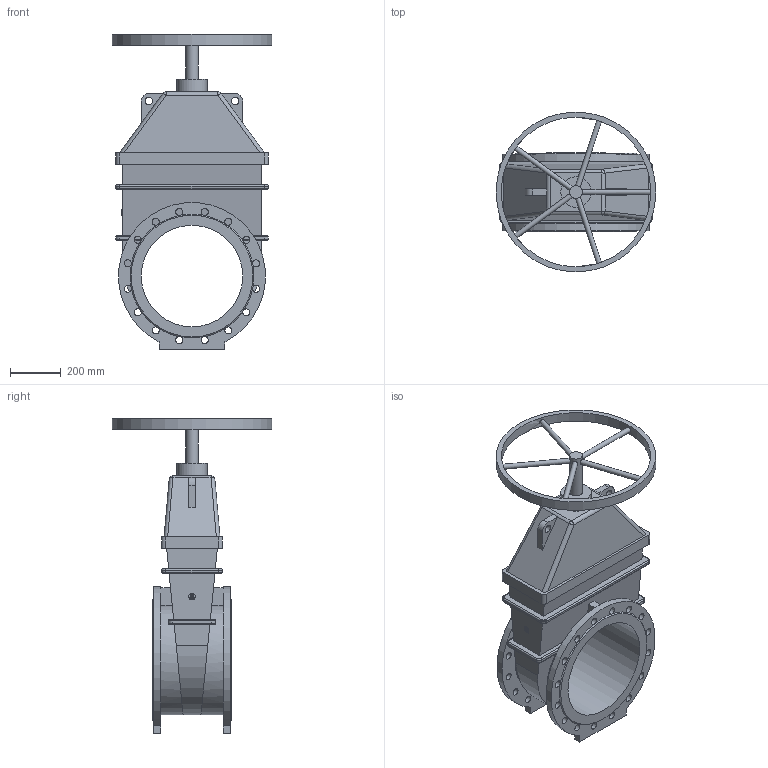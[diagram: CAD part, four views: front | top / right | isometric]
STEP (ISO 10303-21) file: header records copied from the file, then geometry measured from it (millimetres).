
FILE_DESCRIPTION(('STEP AP203'), '1');
FILE_NAME('Çàäâèæêà 47GV DN400 PN10_L310_W630 ñ ìàõîâèêîì', '', ('UNSPECIFIED'), ('UNSPECIFIED'), 'ASCON STEP Converter 1.6', 'ASCON Math Kernel', '');
FILE_SCHEMA(('CONFIG_CONTROL_DESIGN'));
Length unit declared in the file: millimetre
Bounding box: 630 x 630 x 1243 mm (x, y, z)
Volume: 72539446.7 mm3; surface area: 2776960.7 mm2
Topology: 1 solids, 1 shells, 201 faces, 609 edges, 388 vertices
Faces by surface type: cylinder 98, plane 81, bspline 12, torus 8, cone 2
Full cylindrical faces by diameter (mm): 20 x5, 28 x32, 30 x2, 50 x1, 120 x1, 400 x1, 590 x1, 630 x1
Entity records: 12007 total; most frequent: CARTESIAN_POINT 5006, ORIENTED_EDGE 1116, DIRECTION 1084, EDGE_CURVE 558, AXIS2_PLACEMENT_3D 428, VERTEX_POINT 388, EDGE_LOOP 310, FACE_BOUND 253
